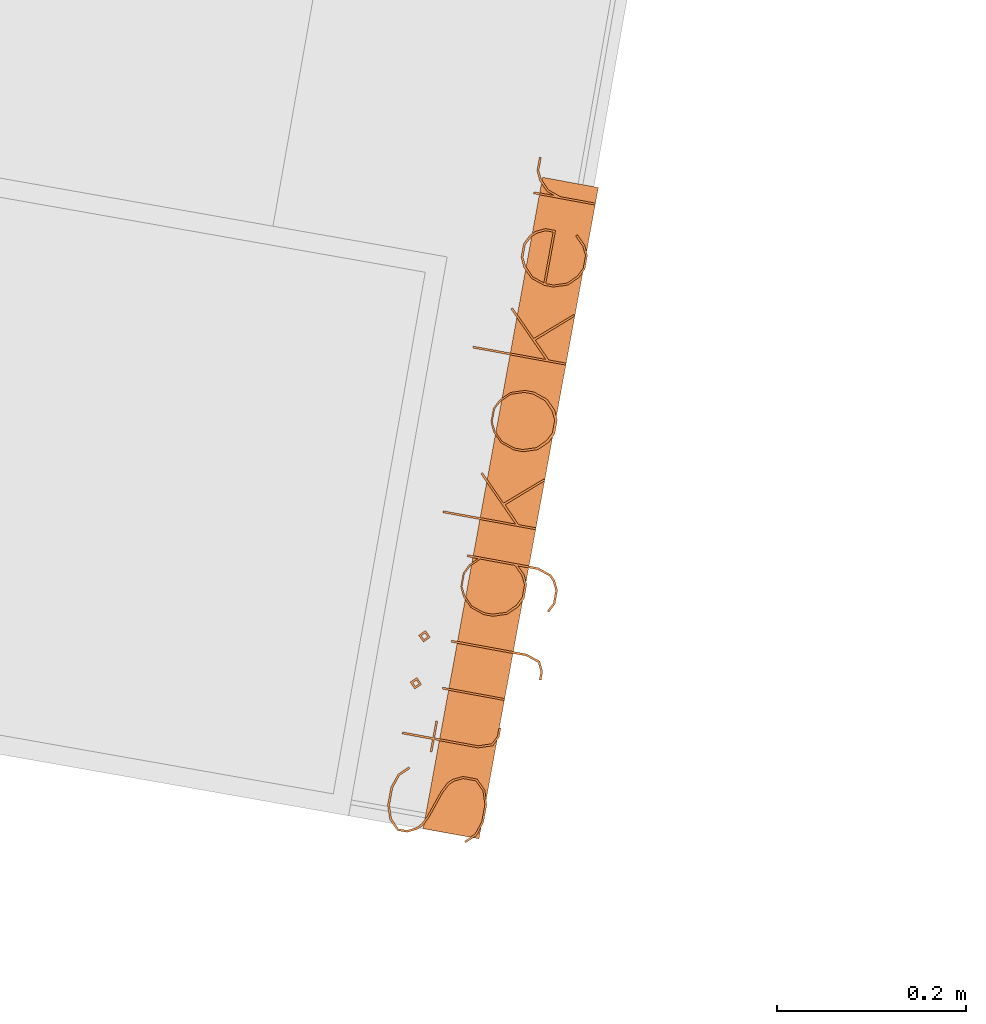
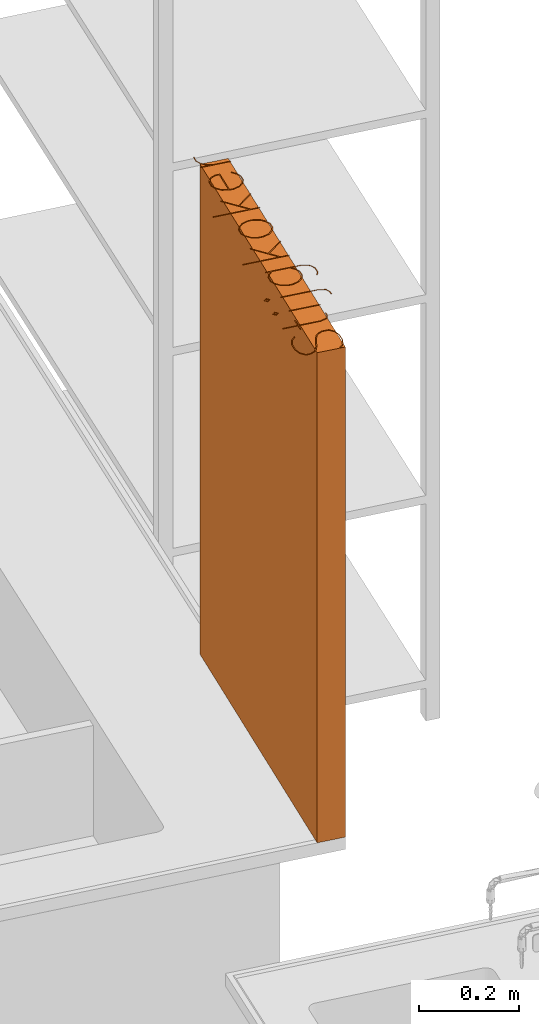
# One storey, part 29 of 32: 1 proxy.
"""IFC2X3 building model written with IfcOpenShell, lengths in metres."""

from ifc_helpers import new_model, entity, si_unit, converted_unit, derived_unit, direction, frame, origin, place, context, subcontext, project, spatial, face_set, surface_model, source, transform, mapped, material, type_object, type_shapes, element, save


model = new_model("IFC2X3")

# Units and contexts
model_context = context("Model", 3, precision=1e-05, world=origin(), true_north=direction((6.12303176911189e-17, 1.0)))
body_context = subcontext(model_context, "Body", "Model", "MODEL_VIEW")
ifc_project = project(units=[si_unit("LENGTHUNIT", "METRE"), si_unit("AREAUNIT", "SQUARE_METRE"), si_unit("VOLUMEUNIT", "CUBIC_METRE"), converted_unit("PLANEANGLEUNIT", "DEGREE", entity("IfcRatioMeasure", 0.0174532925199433), si_unit("PLANEANGLEUNIT", "RADIAN"), dimensions=[0, 0, 0, 0, 0, 0, 0]), si_unit("MASSUNIT", "GRAM", prefix="KILO"), derived_unit("MASSDENSITYUNIT", [(si_unit("MASSUNIT", "GRAM", prefix="KILO"), 1), (si_unit("LENGTHUNIT", "METRE"), -3)]), derived_unit("MOMENTOFINERTIAUNIT", [(si_unit("LENGTHUNIT", "METRE"), 4)]), si_unit("TIMEUNIT", "SECOND"), si_unit("FREQUENCYUNIT", "HERTZ"), si_unit("THERMODYNAMICTEMPERATUREUNIT", "DEGREE_CELSIUS"), derived_unit("THERMALTRANSMITTANCEUNIT", [(si_unit("MASSUNIT", "GRAM", prefix="KILO"), 1), (si_unit("THERMODYNAMICTEMPERATUREUNIT", "KELVIN"), -1), (si_unit("TIMEUNIT", "SECOND"), -3)]), derived_unit("VOLUMETRICFLOWRATEUNIT", [(si_unit("LENGTHUNIT", "METRE"), 3), (si_unit("TIMEUNIT", "SECOND"), -1)]), si_unit("ELECTRICCURRENTUNIT", "AMPERE"), si_unit("ELECTRICVOLTAGEUNIT", "VOLT"), si_unit("POWERUNIT", "WATT"), si_unit("FORCEUNIT", "NEWTON", prefix="KILO"), si_unit("ILLUMINANCEUNIT", "LUX"), si_unit("LUMINOUSFLUXUNIT", "LUMEN"), si_unit("LUMINOUSINTENSITYUNIT", "CANDELA"), derived_unit("USERDEFINED", [(si_unit("MASSUNIT", "GRAM", prefix="KILO"), -1), (si_unit("LENGTHUNIT", "METRE"), -2), (si_unit("TIMEUNIT", "SECOND"), 3), (si_unit("LUMINOUSFLUXUNIT", "LUMEN"), 1)]), derived_unit("LINEARVELOCITYUNIT", [(si_unit("LENGTHUNIT", "METRE"), 1), (si_unit("TIMEUNIT", "SECOND"), -1)]), si_unit("PRESSUREUNIT", "PASCAL"), derived_unit("USERDEFINED", [(si_unit("LENGTHUNIT", "METRE"), -2), (si_unit("MASSUNIT", "GRAM", prefix="KILO"), 1), (si_unit("TIMEUNIT", "SECOND"), -2)]), derived_unit("LINEARFORCEUNIT", [(si_unit("MASSUNIT", "GRAM", prefix="KILO"), 1), (si_unit("LENGTHUNIT", "METRE"), 1), (si_unit("TIMEUNIT", "SECOND"), -2), (si_unit("LENGTHUNIT", "METRE"), -1)]), derived_unit("PLANARFORCEUNIT", [(si_unit("MASSUNIT", "GRAM", prefix="KILO"), 1), (si_unit("LENGTHUNIT", "METRE"), 1), (si_unit("TIMEUNIT", "SECOND"), -2), (si_unit("LENGTHUNIT", "METRE"), -2)])], contexts=[model_context])

# Site, building, storey
site_placement = place(None, origin())
site = spatial("IfcSite", under=ifc_project, at=site_placement, Name="Default", CompositionType="ELEMENT")
building_placement = place(site_placement, origin())
building = spatial("IfcBuilding", under=site, at=building_placement, CompositionType="ELEMENT")
storey_placement = place(building_placement, origin())
storey = spatial("IfcBuildingStorey", under=building, at=storey_placement, Name="00 EG", CompositionType="ELEMENT", Elevation=0.0)

# Proxy
ifc_material = material(Name="dh_Stellfläche")
building_element_proxy_type = type_object("IfcBuildingElementProxyType", Name="dh_Gerät_Stellfläche Bestand:Nutzergerät", PredefinedType="NOTDEFINED", material=ifc_material)
shared_shape = source(origin(), body_context, "Body", "SurfaceModel", [
    surface_model("IfcFaceBasedSurfaceModel", [(-0.355113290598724, -0.0453817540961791, 1.205), (-0.356700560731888, -0.0470458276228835, 1.205), (-0.346946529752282, -0.0567998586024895, 1.205), (-0.332277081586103, -0.0616384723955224, 1.205), (-0.312948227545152, -0.0616384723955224, 1.205), (-0.298278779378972, -0.0567998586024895, 1.205), (-0.288166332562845, -0.0466618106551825, 1.205), (-0.288166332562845, -0.0314547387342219, 1.205), (-0.293081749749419, -0.0214446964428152, 1.205), (-0.298073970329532, -0.0163500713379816, 1.205), (-0.307904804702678, -0.0115114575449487, 1.205), (-0.336450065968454, -0.00188543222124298, 1.205), (-0.345692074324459, 0.00295318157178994, 1.205), (-0.350197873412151, 0.00745898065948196, 1.205), (-0.354857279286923, 0.0166497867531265, 1.205), (-0.354857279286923, 0.0255845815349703, 1.205), (-0.345820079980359, 0.0347241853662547, 1.205), (-0.331944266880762, 0.0393579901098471, 1.205), (-0.313204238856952, 0.0393579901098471, 1.205), (-0.299328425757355, 0.0347241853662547, 1.205), (-0.290112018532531, 0.0252005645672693, 1.205), (-0.288447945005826, 0.0268646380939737, 1.205), (-0.298278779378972, 0.0366186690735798, 1.205), (-0.312948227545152, 0.041585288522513, 1.205), (-0.332277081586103, 0.041585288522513, 1.205), (-0.346946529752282, 0.0366186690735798, 1.205), (-0.356982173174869, 0.0264550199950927, 1.205), (-0.356982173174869, 0.016112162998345, 1.205), (-0.352117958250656, 0.00610212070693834, 1.205), (-0.347074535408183, 0.00100749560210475, 1.205), (-0.337243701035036, -0.00383111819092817, 1.205), (-0.30869843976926, -0.0134571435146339, 1.205), (-0.299456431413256, -0.0182957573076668, 1.205), (-0.294950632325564, -0.0228015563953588, 1.205), (-0.290368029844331, -0.0320691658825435, 1.205), (-0.290368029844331, -0.0457657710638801, 1.205), (-0.299328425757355, -0.0549053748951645, 1.205), (-0.313204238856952, -0.0595647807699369, 1.205), (-0.331944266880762, -0.0595647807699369, 1.205), (-0.345820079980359, -0.0549053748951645, 1.205), (-0.230691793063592, -0.0616384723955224, 1.205), (-0.230691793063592, -0.0595647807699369, 1.205), (-0.239908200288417, -0.0595647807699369, 1.205), (-0.24874059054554, -0.055084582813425, 1.205), (-0.253399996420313, -0.0413879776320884, 1.205), (-0.253399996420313, 0.00533408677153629, 1.205), (-0.235402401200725, 0.00533408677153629, 1.205), (-0.235402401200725, 0.00745898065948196, 1.205), (-0.253399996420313, 0.00745898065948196, 1.205), (-0.253399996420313, 0.0399468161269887, 1.205), (-0.255576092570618, 0.0399468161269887, 1.205), (-0.255576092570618, 0.00745898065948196, 1.205), (-0.268735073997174, 0.00745898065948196, 1.205), (-0.268735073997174, 0.00533408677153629, 1.205), (-0.255576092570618, 0.00533408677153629, 1.205), (-0.255576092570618, -0.0416439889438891, 1.205), (-0.250660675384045, -0.0566974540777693, 1.205), (-0.240445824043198, -0.0616384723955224, 1.205), (-0.201327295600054, -0.0599999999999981, 1.205), (-0.199202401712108, -0.0599999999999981, 1.205), (-0.199202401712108, 0.00666534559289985, 1.205), (-0.201327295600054, 0.00666534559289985, 1.205), (-0.173294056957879, -0.0922318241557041, 1.205), (-0.173294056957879, -0.0944079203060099, 1.205), (-0.163744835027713, -0.0944079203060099, 1.205), (-0.153581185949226, -0.0893644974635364, 1.205), (-0.148665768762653, -0.0744390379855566, 1.205), (-0.148665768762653, 0.00651173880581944, 1.205), (-0.150867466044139, 0.00651173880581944, 1.205), (-0.150867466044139, -0.0741574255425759, 1.205), (-0.155501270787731, -0.087700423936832, 1.205), (-0.164333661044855, -0.0922318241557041, 1.205), (-0.100049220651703, -0.0875980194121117, 1.205), (-0.101175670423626, -0.0895181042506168, 1.205), (-0.0913448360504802, -0.0944079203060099, 1.205), (-0.0765473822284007, -0.0944079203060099, 1.205), (-0.0666397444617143, -0.0895181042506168, 1.205), (-0.0615963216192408, -0.0843466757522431, 1.205), (-0.0566809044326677, -0.069728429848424, 1.205), (-0.0566809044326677, 0.00615332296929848, 1.205), (-0.0588826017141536, 0.00615332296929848, 1.205), (-0.0588826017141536, -0.00552079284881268, 1.205), (-0.0666397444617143, 0.0023387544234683, 1.205), (-0.0765473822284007, 0.00717736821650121, 1.205), (-0.0913448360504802, 0.00717736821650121, 1.205), (-0.101303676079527, 0.0023387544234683, 1.205), (-0.111057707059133, -0.00756888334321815, 1.205), (-0.115973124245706, -0.0221871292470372, 1.205), (-0.115973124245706, -0.0319923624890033, 1.205), (-0.111057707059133, -0.0465850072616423, 1.205), (-0.101303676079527, -0.0564926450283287, 1.205), (-0.0913448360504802, -0.0612544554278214, 1.205), (-0.0765473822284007, -0.0612544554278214, 1.205), (-0.0666397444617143, -0.0564926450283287, 1.205), (-0.0588826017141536, -0.0485818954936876, 1.205), (-0.0588826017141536, -0.0694724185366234, 1.205), (-0.0634652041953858, -0.0832970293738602, 1.205), (-0.0679710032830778, -0.0875980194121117, 1.205), (-0.0770594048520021, -0.0922318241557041, 1.205), (-0.0908072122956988, -0.0922318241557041, 1.205), (-0.0588826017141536, -0.0452537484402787, 1.205), (-0.0679710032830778, -0.0542909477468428, 1.205), (-0.0770594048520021, -0.0588735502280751, 1.205), (-0.0908072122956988, -0.0588735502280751, 1.205), (-0.0999212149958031, -0.0542909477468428, 1.205), (-0.109214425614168, -0.0451257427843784, 1.205), (-0.1137970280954, -0.0312499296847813, 1.205), (-0.1137970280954, -0.0220079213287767, 1.205), (-0.109214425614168, -0.00813210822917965, 1.205), (-0.0999212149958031, 0.000956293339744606, 1.205), (-0.0908072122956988, 0.00561569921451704, 1.205), (-0.0770594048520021, 0.00561569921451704, 1.205), (-0.0679710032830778, 0.000956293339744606, 1.205), (-0.0588826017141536, -0.00800410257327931, 1.205), (-0.017818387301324, -0.0599999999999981, 1.205), (-0.0156934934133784, -0.0599999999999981, 1.205), (-0.0156934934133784, -0.0413367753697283, 1.205), (0.0023041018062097, -0.0235439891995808, 1.205), (0.0347919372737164, -0.0599999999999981, 1.205), (0.0364560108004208, -0.0587455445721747, 1.205), (0.00376336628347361, -0.0214958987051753, 1.205), (0.031668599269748, 0.00625572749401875, 1.205), (0.0300813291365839, 0.00784299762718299, 1.205), (-0.0156934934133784, -0.0379574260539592, 1.205), (-0.0156934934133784, 0.0399468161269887, 1.205), (-0.017818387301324, 0.0399468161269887, 1.205), (0.120146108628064, -0.0469178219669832, 1.205), (0.125061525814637, -0.0322227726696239, 1.205), (0.125061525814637, -0.0223663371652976, 1.205), (0.120146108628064, -0.00767128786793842, 1.205), (0.110315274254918, 0.00231315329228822, 1.205), (0.100407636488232, 0.00717736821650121, 1.205), (0.0856101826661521, 0.00717736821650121, 1.205), (0.0756513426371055, 0.00231315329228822, 1.205), (0.0658973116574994, -0.00767128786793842, 1.205), (0.0609818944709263, -0.0223663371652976, 1.205), (0.0609818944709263, -0.0322227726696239, 1.205), (0.0658973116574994, -0.0469178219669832, 1.205), (0.0756513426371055, -0.0568510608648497, 1.205), (0.0856101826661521, -0.0616384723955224, 1.205), (0.100407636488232, -0.0616384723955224, 1.205), (0.110315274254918, -0.0568510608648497, 1.205), (0.118200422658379, -0.0451257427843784, 1.205), (0.108984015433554, -0.0542909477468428, 1.205), (0.0998956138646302, -0.0588735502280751, 1.205), (0.0861478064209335, -0.0588735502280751, 1.205), (0.0770338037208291, -0.0542909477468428, 1.205), (0.0677405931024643, -0.0451257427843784, 1.205), (0.0631579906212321, -0.0312499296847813, 1.205), (0.0631579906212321, -0.0220079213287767, 1.205), (0.0677405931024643, -0.00813210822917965, 1.205), (0.0770338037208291, 0.000956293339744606, 1.205), (0.0861478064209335, 0.00561569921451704, 1.205), (0.0998956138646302, 0.00561569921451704, 1.205), (0.108984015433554, 0.000956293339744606, 1.205), (0.118200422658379, -0.00813210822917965, 1.205), (0.122859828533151, -0.0220079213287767, 1.205), (0.122859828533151, -0.0312499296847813, 1.205), (0.159136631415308, -0.0599999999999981, 1.205), (0.161261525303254, -0.0599999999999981, 1.205), (0.161261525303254, -0.0413367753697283, 1.205), (0.179259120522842, -0.0235439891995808, 1.205), (0.211746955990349, -0.0599999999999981, 1.205), (0.213411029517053, -0.0587455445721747, 1.205), (0.180718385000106, -0.0214958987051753, 1.205), (0.20862361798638, 0.00625572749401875, 1.205), (0.207036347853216, 0.00784299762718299, 1.205), (0.161261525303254, -0.0379574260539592, 1.205), (0.161261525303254, 0.0399468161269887, 1.205), (0.159136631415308, 0.0399468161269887, 1.205), (0.296973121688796, -0.0471994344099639, 1.205), (0.295309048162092, -0.0455353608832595, 1.205), (0.285939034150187, -0.0549821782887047, 1.205), (0.276850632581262, -0.0595647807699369, 1.205), (0.263102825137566, -0.0595647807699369, 1.205), (0.253988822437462, -0.0549821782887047, 1.205), (0.244695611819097, -0.0457913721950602, 1.205), (0.240113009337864, -0.0318899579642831, 1.205), (0.240113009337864, -0.0236463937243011, 1.205), (0.297229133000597, -0.0236463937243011, 1.205), (0.297229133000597, -0.0127147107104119, 1.205), (0.292313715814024, -0.00273026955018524, 1.205), (0.28727029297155, 0.00231315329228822, 1.205), (0.277362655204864, 0.00717736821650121, 1.205), (0.262565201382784, 0.00717736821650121, 1.205), (0.252606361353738, 0.00231315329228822, 1.205), (0.242852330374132, -0.00767128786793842, 1.205), (0.237936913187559, -0.0223663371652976, 1.205), (0.237936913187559, -0.0322227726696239, 1.205), (0.242852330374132, -0.0469178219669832, 1.205), (0.252606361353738, -0.0568510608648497, 1.205), (0.262565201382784, -0.0616384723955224, 1.205), (0.277362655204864, -0.0616384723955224, 1.205), (0.28727029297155, -0.0568510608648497, 1.205), (0.240522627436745, -0.0214446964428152, 1.205), (0.244695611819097, -0.00874653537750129, 1.205), (0.253988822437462, 0.000341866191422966, 1.205), (0.263102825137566, 0.0050012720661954, 1.205), (0.276850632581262, 0.0050012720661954, 1.205), (0.285939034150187, 0.000341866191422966, 1.205), (0.290444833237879, -0.00416393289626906, 1.205), (0.295027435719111, -0.0132779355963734, 1.205), (0.295027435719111, -0.0214446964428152, 1.205), (0.331176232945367, -0.0599999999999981, 1.205), (0.333301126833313, -0.0599999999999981, 1.205), (0.333301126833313, -0.0223407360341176, 1.205), (0.337960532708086, -0.00856732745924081, 1.205), (0.34720254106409, 0.000469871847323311, 1.205), (0.356342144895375, 0.00507807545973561, 1.205), (0.370371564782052, 0.00507807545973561, 1.205), (0.370371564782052, 0.00717736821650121, 1.205), (0.355753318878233, 0.00717736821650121, 1.205), (0.345871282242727, 0.00236435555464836, 1.205), (0.33604044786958, -0.00751768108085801, 1.205), (0.333301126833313, -0.0156076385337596, 1.205), (0.333301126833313, 0.00630692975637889, 1.205), (0.331176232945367, 0.00630692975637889, 1.205), (-0.149792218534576, 0.0291175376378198, 1.205), (-0.143494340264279, 0.0353386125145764, 1.205), (-0.149792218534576, 0.041585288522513, 1.205), (-0.156038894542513, 0.0353386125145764, 1.205), (-0.149792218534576, 0.0319592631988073, 1.205), (-0.153043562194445, 0.035210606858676, 1.205), (-0.149792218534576, 0.0384875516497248, 1.205), (-0.146464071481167, 0.035210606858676, 1.205), (-0.200252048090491, 0.0291175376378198, 1.205), (-0.194005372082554, 0.0353386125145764, 1.205), (-0.200252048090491, 0.041585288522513, 1.205), (-0.206498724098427, 0.0353386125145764, 1.205), (-0.200252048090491, 0.0319592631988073, 1.205), (-0.203503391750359, 0.035210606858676, 1.205), (-0.200252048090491, 0.0384875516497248, 1.205), (-0.197000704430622, 0.035210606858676, 1.205), (0.35, 0.0, 1.2), (0.35, -0.06, 1.2), (-0.35, -0.06, 1.2), (-0.35, 0.0, 1.2), (0.35, 0.0, 0.0), (0.35, -0.06, 0.0), (-0.35, -0.06, 0.0), (-0.35, 0.0, 0.0)], [face_set([[[0, 1, 2, 3, 4, 5, 6, 7, 8, 9, 10, 11, 12, 13, 14, 15, 16, 17, 18, 19, 20, 21, 22, 23, 24, 25, 26, 27, 28, 29, 30, 31, 32, 33, 34, 35, 36, 37, 38, 39]]]), face_set([[[40, 41, 42, 43, 44, 45, 46, 47, 48, 49, 50, 51, 52, 53, 54, 55, 56, 57]]]), face_set([[[58, 59, 60, 61]]]), face_set([[[62, 63, 64, 65, 66, 67, 68, 69, 70, 71]]]), face_set([[[72, 73, 74, 75, 76, 77, 78, 79, 80, 81, 82, 83, 84, 85, 86, 87, 88, 89, 90, 91, 92, 93, 94, 95, 96, 97, 98, 99], [100, 101, 102, 103, 104, 105, 106, 107, 108, 109, 110, 111, 112, 113]]]), face_set([[[114, 115, 116, 117, 118, 119, 120, 121, 122, 123, 124, 125]]]), face_set([[[126, 127, 128, 129, 130, 131, 132, 133, 134, 135, 136, 137, 138, 139, 140, 141], [142, 143, 144, 145, 146, 147, 148, 149, 150, 151, 152, 153, 154, 155, 156, 157]]]), face_set([[[158, 159, 160, 161, 162, 163, 164, 165, 166, 167, 168, 169]]]), face_set([[[170, 171, 172, 173, 174, 175, 176, 177, 178, 179, 180, 181, 182, 183, 184, 185, 186, 187, 188, 189, 190, 191, 192, 193], [194, 195, 196, 197, 198, 199, 200, 201, 202]]]), face_set([[[203, 204, 205, 206, 207, 208, 209, 210, 211, 212, 213, 214, 215, 216]]]), face_set([[[217, 218, 219, 220], [221, 222, 223, 224]]]), face_set([[[225, 226, 227, 228], [229, 230, 231, 232]]]), face_set([[[233, 234, 235, 236]], [[237, 238, 239, 240]], [[236, 233, 237, 240]], [[235, 236, 240, 239]], [[234, 238, 239, 235]], [[233, 234, 238, 237]]])]),
])
type_shapes(building_element_proxy_type, [shared_shape])
proxy_placement = place(storey_placement, frame((27.1142396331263, 19.3488716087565, 0.9), z_axis=(0.0, 0.0, 1.0), x_axis=(0.180288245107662, 0.983613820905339, 0.0)))
element("IfcBuildingElementProxy", 1, at=proxy_placement, inside=storey, type_object=building_element_proxy_type, material=ifc_material, Name="dh_Gerät_Stellfläche Bestand:Nutzergerät", ObjectType="dh_Gerät_Stellfläche Bestand:Nutzergerät", context=body_context, shape_type="MappedRepresentation", body=[
    mapped(shared_shape, transform((0.0, 0.0, 0.0), scale=1.0)),
])

save(model, "model.ifc")
